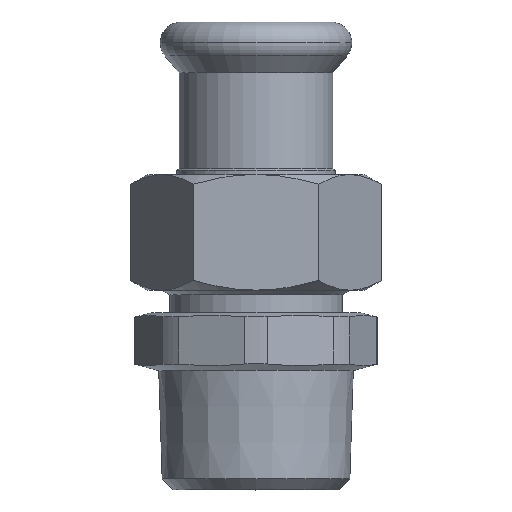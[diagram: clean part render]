
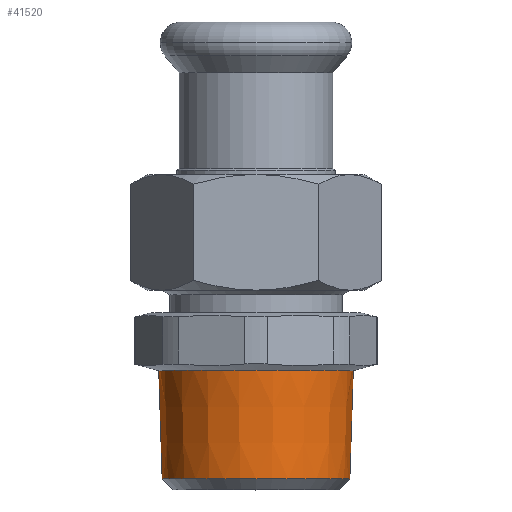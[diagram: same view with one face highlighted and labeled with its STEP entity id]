
A CAD part, top view. The second image highlights one B-rep face of the part: STEP entity #41520.
In plain terms, the highlighted conical face has half-angle 1.79 degrees and reference radius 13.453 mm.
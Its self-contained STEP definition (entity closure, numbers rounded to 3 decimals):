
#39600=CARTESIAN_POINT('',(232.808,0.274,
0.));
#39610=VERTEX_POINT('',#39600);
#41070=CARTESIAN_POINT('',(232.808,27.18,
0.));
#41080=VERTEX_POINT('',#41070);
#41110=CARTESIAN_POINT('',(232.808,13.727,
0.));
#41120=DIRECTION('',(-1.,0.,0.));
#41130=DIRECTION('',(0.,1.,0.));
#41140=AXIS2_PLACEMENT_3D('',#41110,#41120,#41130);
#41150=CIRCLE('',#41140,13.453);
#41160=EDGE_CURVE('',#39610,#41080,#41150,.T.);
#41210=CARTESIAN_POINT('',(232.808,13.727,
0.));
#41220=DIRECTION('',(-1.,0.,0.));
#41230=DIRECTION('',(0.,1.,0.));
#41240=AXIS2_PLACEMENT_3D('',#41210,#41220,#41230);
#41250=CONICAL_SURFACE('',#41240,13.453,0.031);
#41260=CARTESIAN_POINT('',(232.808,0.274,
0.));
#41270=DIRECTION('',(-1.,-0.031,
0.));
#41280=VECTOR('',#41270,1.);
#41290=LINE('',#41260,#41280);
#41300=CARTESIAN_POINT('',(247.808,0.742,
0.));
#41310=VERTEX_POINT('',#41300);
#41320=EDGE_CURVE('',#41310,#39610,#41290,.T.);
#41330=ORIENTED_EDGE('',*,*,#41320,.F.);
#41340=ORIENTED_EDGE('',*,*,#41160,.F.);
#41350=CARTESIAN_POINT('',(232.808,27.18,
0.));
#41360=DIRECTION('',(-1.,0.031,0.));
#41370=VECTOR('',#41360,1.);
#41380=LINE('',#41350,#41370);
#41390=CARTESIAN_POINT('',(247.808,26.711,
0.));
#41400=VERTEX_POINT('',#41390);
#41410=EDGE_CURVE('',#41400,#41080,#41380,.T.);
#41420=ORIENTED_EDGE('',*,*,#41410,.T.);
#41430=CARTESIAN_POINT('',(247.808,13.727,
0.));
#41440=DIRECTION('',(-1.,0.,0.));
#41450=DIRECTION('',(0.,1.,0.));
#41460=AXIS2_PLACEMENT_3D('',#41430,#41440,#41450);
#41470=CIRCLE('',#41460,12.984);
#41480=EDGE_CURVE('',#41310,#41400,#41470,.T.);
#41490=ORIENTED_EDGE('',*,*,#41480,.T.);
#41500=EDGE_LOOP('',(#41490,#41420,#41340,#41330));
#41510=FACE_OUTER_BOUND('',#41500,.T.);
#41520=ADVANCED_FACE('',(#41510),#41250,.T.);
